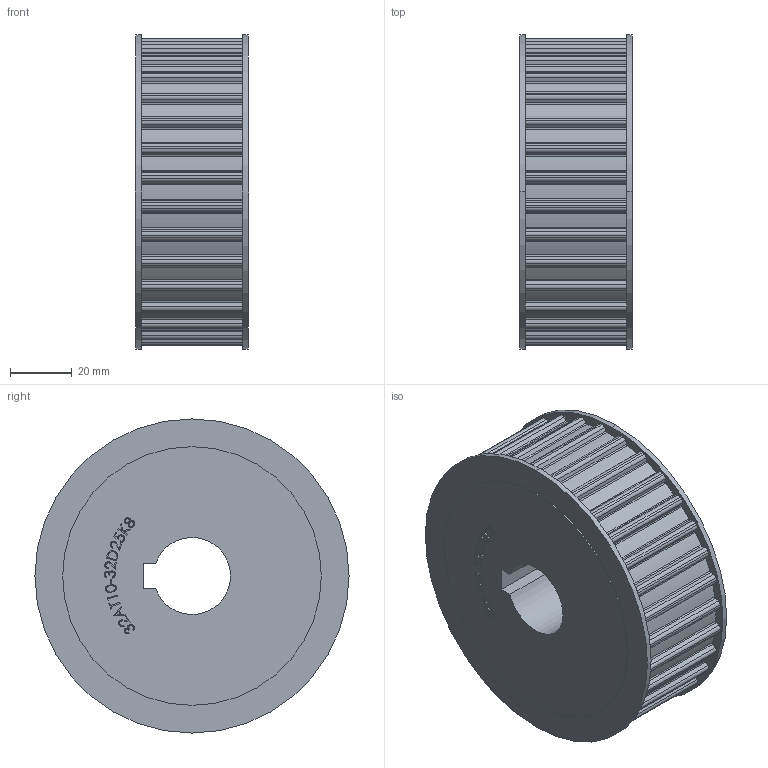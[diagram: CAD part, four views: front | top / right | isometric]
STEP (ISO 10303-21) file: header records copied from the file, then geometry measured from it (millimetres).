
FILE_DESCRIPTION (( 'STEP AP214' ), '1' );
FILE_NAME ('3.2015 hammashihnapyörä 32AT10_32D25K8_0.STEP', '2026-02-10T10:48:37', ( '' ), ( '' ), 'SwSTEP 2.0', 'SolidWorks 2025', '' );
FILE_SCHEMA (( 'AUTOMOTIVE_DESIGN' ));
Length unit declared in the file: millimetre
Products named in the file (1): 3.2015 hammashihnapyörä  32AT10_32D25K8_0
Bounding box: 37 x 102 x 102 mm (x, y, z)
Volume: 254086.1 mm3; surface area: 35094 mm2
Topology: 1 solids, 1 shells, 498 faces, 1417 edges, 944 vertices
Faces by surface type: cylinder 236, plane 172, bspline 90
Entity records: 24306 total; most frequent: CARTESIAN_POINT 11696, ORIENTED_EDGE 2834, DIRECTION 2391, EDGE_CURVE 1417, VERTEX_POINT 944, AXIS2_PLACEMENT_3D 818, VECTOR 755, LINE 755
